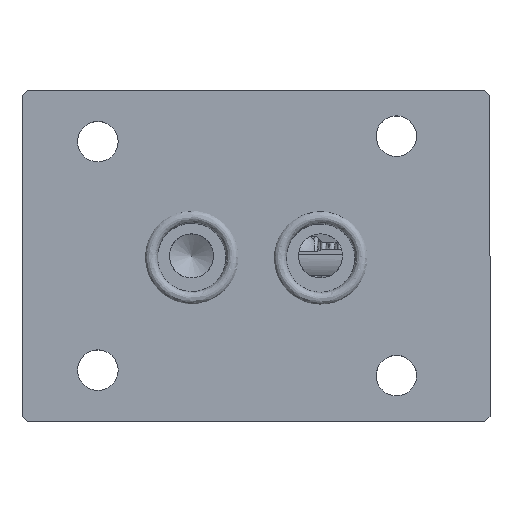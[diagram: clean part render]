
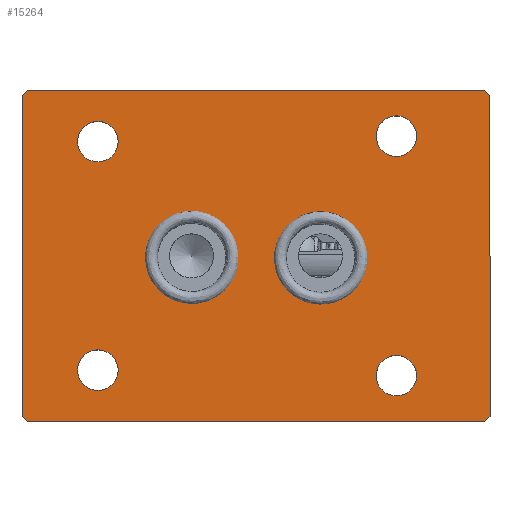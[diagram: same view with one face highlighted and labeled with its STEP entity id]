
A CAD part, top view. The second image highlights one B-rep face of the part: STEP entity #15264.
In plain terms, the highlighted planar face has unit normal (0, 0, 1).
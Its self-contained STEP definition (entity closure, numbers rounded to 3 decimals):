
#30 = LINE ( 'NONE', #16220, #3347 ) ;
#168 = CARTESIAN_POINT ( 'NONE',  ( -31.75, 21.8, 10. ) ) ;
#450 = ORIENTED_EDGE ( 'NONE', *, *, #13753, .F. ) ;
#1398 = VERTEX_POINT ( 'NONE', #2027 ) ;
#1917 = EDGE_CURVE ( 'NONE', #1398, #10358, #35548, .T. ) ;
#2027 = CARTESIAN_POINT ( 'NONE',  ( -31.75, -21.8, 10. ) ) ;
#2111 = FACE_BOUND ( 'NONE', #29347, .T. ) ;
#2178 = ORIENTED_EDGE ( 'NONE', *, *, #12880, .T. ) ;
#2278 = DIRECTION ( 'NONE',  ( 0., 0., 1. ) ) ;
#2290 = VERTEX_POINT ( 'NONE', #26385 ) ;
#2468 = FACE_BOUND ( 'NONE', #29872, .T. ) ;
#2523 = EDGE_CURVE ( 'NONE', #8980, #8980, #26208, .T. ) ;
#2627 = ORIENTED_EDGE ( 'NONE', *, *, #4266, .T. ) ;
#2630 = CARTESIAN_POINT ( 'NONE',  ( -31.75, 22.5, 10. ) ) ;
#3006 = VERTEX_POINT ( 'NONE', #22412 ) ;
#3175 = DIRECTION ( 'NONE',  ( 0., 0., -1. ) ) ;
#3347 = VECTOR ( 'NONE', #11003, 1000. ) ;
#3639 = EDGE_LOOP ( 'NONE', ( #450 ) ) ;
#4122 = ORIENTED_EDGE ( 'NONE', *, *, #21326, .T. ) ;
#4266 = EDGE_CURVE ( 'NONE', #10358, #22999, #20557, .T. ) ;
#4447 = VECTOR ( 'NONE', #32426, 1000. ) ;
#4618 = ORIENTED_EDGE ( 'NONE', *, *, #15775, .T. ) ;
#4765 = LINE ( 'NONE', #21116, #4447 ) ;
#4972 = DIRECTION ( 'NONE',  ( 1., 0., 0. ) ) ;
#5162 = VERTEX_POINT ( 'NONE', #22745 ) ;
#5234 = LINE ( 'NONE', #18894, #9182 ) ;
#5327 = CARTESIAN_POINT ( 'NONE',  ( -21.45, 15.5, 10. ) ) ;
#5347 = DIRECTION ( 'NONE',  ( 0.707, -0.707, 0. ) ) ;
#5699 = CARTESIAN_POINT ( 'NONE',  ( -31.4, -22.15, 10. ) ) ;
#5883 = CARTESIAN_POINT ( 'NONE',  ( -24.2, 15.5, 10. ) ) ;
#5993 = AXIS2_PLACEMENT_3D ( 'NONE', #30164, #20439, #22617 ) ;
#6005 = CARTESIAN_POINT ( 'NONE',  ( 31.05, -22.5, 10. ) ) ;
#6852 = DIRECTION ( 'NONE',  ( 0., 0., 1. ) ) ;
#7036 = CARTESIAN_POINT ( 'NONE',  ( 8.75, 0., 10. ) ) ;
#7848 = FACE_BOUND ( 'NONE', #8593, .T. ) ;
#8027 = FACE_BOUND ( 'NONE', #25625, .T. ) ;
#8148 = EDGE_CURVE ( 'NONE', #31776, #31776, #14606, .T. ) ;
#8243 = VERTEX_POINT ( 'NONE', #28536 ) ;
#8389 = FACE_BOUND ( 'NONE', #3639, .T. ) ;
#8423 = VECTOR ( 'NONE', #17691, 1000. ) ;
#8508 = DIRECTION ( 'NONE',  ( -0.707, 0.707, 0. ) ) ;
#8593 = EDGE_LOOP ( 'NONE', ( #34717 ) ) ;
#8980 = VERTEX_POINT ( 'NONE', #25164 ) ;
#9172 = DIRECTION ( 'NONE',  ( -1., 0., 0. ) ) ;
#9182 = VECTOR ( 'NONE', #19254, 1000. ) ;
#9590 = LINE ( 'NONE', #31502, #21348 ) ;
#9765 = DIRECTION ( 'NONE',  ( -1., 0., 0. ) ) ;
#9825 = VECTOR ( 'NONE', #5347, 1000. ) ;
#10358 = VERTEX_POINT ( 'NONE', #22116 ) ;
#10693 = DIRECTION ( 'NONE',  ( 0., 0., 1. ) ) ;
#11003 = DIRECTION ( 'NONE',  ( 0.707, 0.707, 0. ) ) ;
#11260 = VERTEX_POINT ( 'NONE', #5883 ) ;
#11380 = ORIENTED_EDGE ( 'NONE', *, *, #16398, .T. ) ;
#11608 = AXIS2_PLACEMENT_3D ( 'NONE', #7036, #6852, #12427 ) ;
#11862 = AXIS2_PLACEMENT_3D ( 'NONE', #27048, #10693, #21661 ) ;
#12056 = VECTOR ( 'NONE', #8508, 1000. ) ;
#12427 = DIRECTION ( 'NONE',  ( 1., 0., 0. ) ) ;
#12880 = EDGE_CURVE ( 'NONE', #26564, #26564, #35112, .T. ) ;
#13136 = CARTESIAN_POINT ( 'NONE',  ( -31.05, 22.5, 10. ) ) ;
#13245 = CARTESIAN_POINT ( 'NONE',  ( 16.3, -16.25, 10. ) ) ;
#13584 = DIRECTION ( 'NONE',  ( 0., -1., 0. ) ) ;
#13753 = EDGE_CURVE ( 'NONE', #2290, #2290, #17925, .T. ) ;
#14606 = CIRCLE ( 'NONE', #5993, 2.75 ) ;
#15264 = ADVANCED_FACE ( 'NONE', ( #8389, #2111, #7848, #29775, #8027, #2468, #18816 ), #30311, .T. ) ;
#15775 = EDGE_CURVE ( 'NONE', #19799, #32065, #4765, .T. ) ;
#16009 = ORIENTED_EDGE ( 'NONE', *, *, #22215, .T. ) ;
#16220 = CARTESIAN_POINT ( 'NONE',  ( -0.35, -53.9, 10. ) ) ;
#16398 = EDGE_CURVE ( 'NONE', #22999, #23763, #30, .T. ) ;
#17564 = CARTESIAN_POINT ( 'NONE',  ( 19.05, -16.25, 10. ) ) ;
#17691 = DIRECTION ( 'NONE',  ( 1., 0., 0. ) ) ;
#17925 = CIRCLE ( 'NONE', #11608, 6. ) ;
#18211 = ORIENTED_EDGE ( 'NONE', *, *, #25941, .T. ) ;
#18816 = FACE_OUTER_BOUND ( 'NONE', #31310, .T. ) ;
#18894 = CARTESIAN_POINT ( 'NONE',  ( 31.75, 22.5, 10. ) ) ;
#18943 = CIRCLE ( 'NONE', #29841, 2.75 ) ;
#19121 = CARTESIAN_POINT ( 'NONE',  ( 22.15, 31.4, 10. ) ) ;
#19134 = ORIENTED_EDGE ( 'NONE', *, *, #22483, .T. ) ;
#19254 = DIRECTION ( 'NONE',  ( 0., 1., 0. ) ) ;
#19379 = ORIENTED_EDGE ( 'NONE', *, *, #28249, .T. ) ;
#19799 = VERTEX_POINT ( 'NONE', #13136 ) ;
#19908 = DIRECTION ( 'NONE',  ( -1., 0., 0. ) ) ;
#20076 = EDGE_CURVE ( 'NONE', #3006, #3006, #18943, .T. ) ;
#20143 = DIRECTION ( 'NONE',  ( 0., 0., -1. ) ) ;
#20439 = DIRECTION ( 'NONE',  ( 0., 0., -1. ) ) ;
#20557 = LINE ( 'NONE', #29016, #8423 ) ;
#21116 = CARTESIAN_POINT ( 'NONE',  ( -53.9, -0.35, 10. ) ) ;
#21245 = VECTOR ( 'NONE', #13584, 1000. ) ;
#21326 = EDGE_CURVE ( 'NONE', #32065, #1398, #27249, .T. ) ;
#21332 = AXIS2_PLACEMENT_3D ( 'NONE', #17564, #28355, #19908 ) ;
#21348 = VECTOR ( 'NONE', #9765, 1000. ) ;
#21661 = DIRECTION ( 'NONE',  ( 1., 0., 0. ) ) ;
#22116 = CARTESIAN_POINT ( 'NONE',  ( -31.05, -22.5, 10. ) ) ;
#22215 = EDGE_CURVE ( 'NONE', #23763, #8243, #5234, .T. ) ;
#22412 = CARTESIAN_POINT ( 'NONE',  ( -24.2, -15.5, 10. ) ) ;
#22483 = EDGE_CURVE ( 'NONE', #11260, #11260, #30428, .T. ) ;
#22617 = DIRECTION ( 'NONE',  ( -1., 0., 0. ) ) ;
#22745 = CARTESIAN_POINT ( 'NONE',  ( 31.05, 22.5, 10. ) ) ;
#22999 = VERTEX_POINT ( 'NONE', #6005 ) ;
#23528 = AXIS2_PLACEMENT_3D ( 'NONE', #5327, #3175, #23890 ) ;
#23671 = ORIENTED_EDGE ( 'NONE', *, *, #20076, .T. ) ;
#23763 = VERTEX_POINT ( 'NONE', #26239 ) ;
#23890 = DIRECTION ( 'NONE',  ( -1., 0., 0. ) ) ;
#24038 = CARTESIAN_POINT ( 'NONE',  ( 16.3, 16.25, 10. ) ) ;
#25164 = CARTESIAN_POINT ( 'NONE',  ( -2.75, 0., 10. ) ) ;
#25625 = EDGE_LOOP ( 'NONE', ( #23671 ) ) ;
#25692 = AXIS2_PLACEMENT_3D ( 'NONE', #27261, #2278, #4972 ) ;
#25941 = EDGE_CURVE ( 'NONE', #5162, #19799, #9590, .T. ) ;
#26208 = CIRCLE ( 'NONE', #11862, 6. ) ;
#26239 = CARTESIAN_POINT ( 'NONE',  ( 31.75, -21.8, 10. ) ) ;
#26385 = CARTESIAN_POINT ( 'NONE',  ( 14.75, 0., 10. ) ) ;
#26564 = VERTEX_POINT ( 'NONE', #13245 ) ;
#27023 = LINE ( 'NONE', #19121, #12056 ) ;
#27048 = CARTESIAN_POINT ( 'NONE',  ( -8.75, 0., 10. ) ) ;
#27249 = LINE ( 'NONE', #2630, #21245 ) ;
#27261 = CARTESIAN_POINT ( 'NONE',  ( -31.75, -22.5, 10. ) ) ;
#27881 = CARTESIAN_POINT ( 'NONE',  ( -21.45, -15.5, 10. ) ) ;
#28249 = EDGE_CURVE ( 'NONE', #8243, #5162, #27023, .T. ) ;
#28355 = DIRECTION ( 'NONE',  ( 0., 0., -1. ) ) ;
#28536 = CARTESIAN_POINT ( 'NONE',  ( 31.75, 21.8, 10. ) ) ;
#29016 = CARTESIAN_POINT ( 'NONE',  ( -31.75, -22.5, 10. ) ) ;
#29347 = EDGE_LOOP ( 'NONE', ( #32154 ) ) ;
#29775 = FACE_BOUND ( 'NONE', #31608, .T. ) ;
#29841 = AXIS2_PLACEMENT_3D ( 'NONE', #27881, #20143, #9172 ) ;
#29872 = EDGE_LOOP ( 'NONE', ( #19134 ) ) ;
#30164 = CARTESIAN_POINT ( 'NONE',  ( 19.05, 16.25, 10. ) ) ;
#30311 = PLANE ( 'NONE',  #25692 ) ;
#30428 = CIRCLE ( 'NONE', #23528, 2.75 ) ;
#30474 = ORIENTED_EDGE ( 'NONE', *, *, #1917, .T. ) ;
#31310 = EDGE_LOOP ( 'NONE', ( #2627, #11380, #16009, #19379, #18211, #4618, #4122, #30474 ) ) ;
#31502 = CARTESIAN_POINT ( 'NONE',  ( -31.75, 22.5, 10. ) ) ;
#31608 = EDGE_LOOP ( 'NONE', ( #2178 ) ) ;
#31776 = VERTEX_POINT ( 'NONE', #24038 ) ;
#32065 = VERTEX_POINT ( 'NONE', #168 ) ;
#32154 = ORIENTED_EDGE ( 'NONE', *, *, #2523, .F. ) ;
#32426 = DIRECTION ( 'NONE',  ( -0.707, -0.707, 0. ) ) ;
#34717 = ORIENTED_EDGE ( 'NONE', *, *, #8148, .T. ) ;
#35112 = CIRCLE ( 'NONE', #21332, 2.75 ) ;
#35548 = LINE ( 'NONE', #5699, #9825 ) ;
